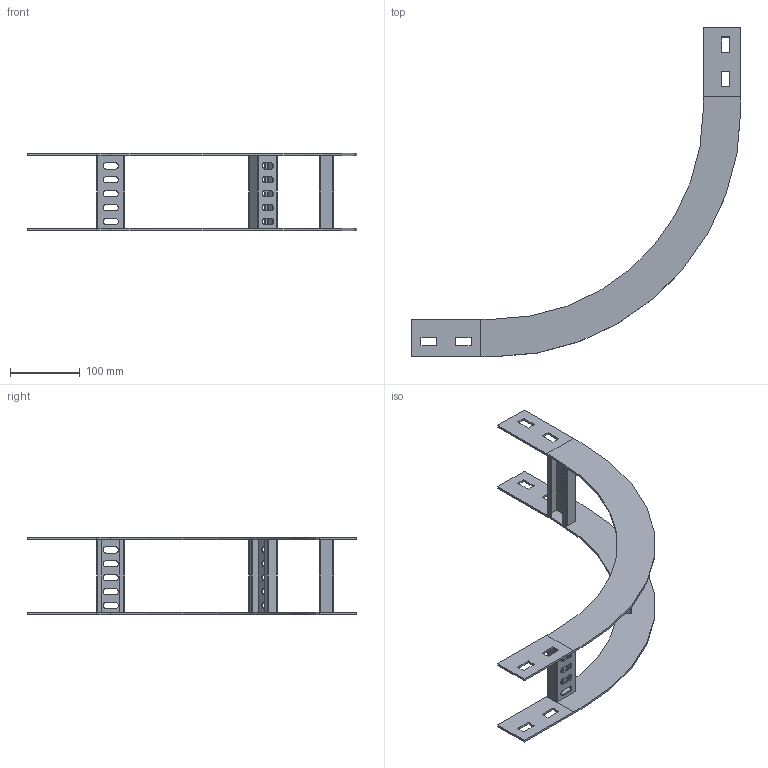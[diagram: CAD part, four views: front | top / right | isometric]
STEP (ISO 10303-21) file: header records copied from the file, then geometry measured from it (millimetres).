
FILE_DESCRIPTION(/* description */ ('','CAx-IF Rec.Pracs.---Representation and Presentation of Product Manufacturing Information (PMI)---4.0---2014-10-13'),/* implementation_level */ '2;1');
FILE_NAME(/* name */ 'Eurostrut_EOR60-100-300_Outisde Riser 90 for Cable Ladder ECL.step',/* time_stamp */ '2026-09-07T11:22:24+02:00',/* author */ (''),/* organization */ (''),/* preprocessor_version */ 'ST-DEVELOPER v20.1',/* originating_system */ 'Autodesk Revit 2027 27.2.0.39',/* authorisation */ '');
FILE_SCHEMA (('AP242_MANAGED_MODEL_BASED_3D_ENGINEERING_MIM_LF { 1 0 10303 442 2 1 4 }'));
Length unit declared in the file: millimetre
Products named in the file (4): TopLevelAssembly; Eurostrut_Cable Ladder_Accessory End_54-94-142; Eurostrut_Cable Ladder_Rung_V2 Vertical_Array EOR_Slotted; Sweep
Assembly tree (6 placements, depth 2):
  TopLevelAssembly
    Eurostrut_Cable Ladder_Accessory End_54-94-142  x4
    Eurostrut_Cable Ladder_Rung_V2 Vertical_Array EOR_Slotted
    Sweep
Bounding box: 474 x 474 x 111 mm (x, y, z)
Volume: 275227.3 mm3; surface area: 223980.2 mm2
Topology: 9 solids, 9 shells, 190 faces, 516 edges, 344 vertices
Faces by surface type: plane 144, bspline 30, cylinder 16
Entity records: 5718 total; most frequent: CARTESIAN_POINT 1768, ORIENTED_EDGE 816, DIRECTION 756, EDGE_CURVE 408, LINE 316, VECTOR 316, VERTEX_POINT 272, AXIS2_PLACEMENT_3D 220
